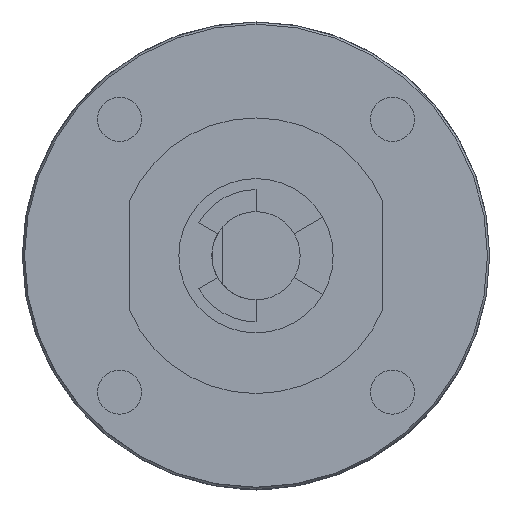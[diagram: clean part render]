
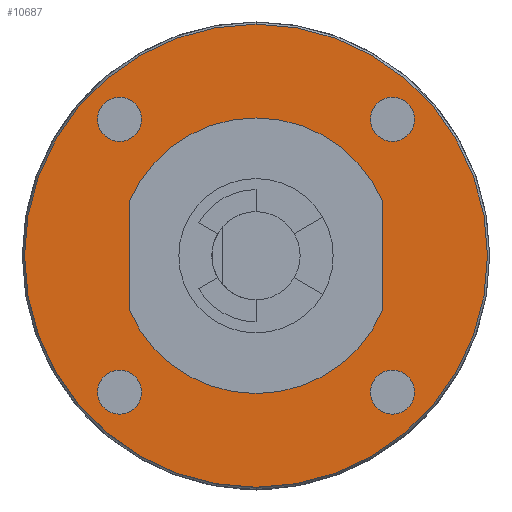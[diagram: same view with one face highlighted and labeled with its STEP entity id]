
A CAD part, front view. The second image highlights one B-rep face of the part: STEP entity #10687.
In plain terms, the highlighted planar face has unit normal (0, -1, 0) as drawn and (0, 1, 0) by its records, which use the part's own axes.
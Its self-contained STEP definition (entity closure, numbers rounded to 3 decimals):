
#9632=CARTESIAN_POINT('',(0.,59.6,0.));
#9633=DIRECTION('',(0.,1.,0.));
#9634=DIRECTION('',(0.,0.,1.));
#9635=AXIS2_PLACEMENT_3D('',#9632,#9633,#9634);
#9637=CARTESIAN_POINT('',(0.,59.6,0.));
#9638=DIRECTION('',(0.,1.,0.));
#9639=DIRECTION('',(0.,0.,-1.));
#9640=AXIS2_PLACEMENT_3D('',#9637,#9638,#9639);
#9642=CARTESIAN_POINT('',(-12.374,59.6,12.374));
#9643=DIRECTION('',(0.,-1.,0.));
#9644=DIRECTION('',(0.,0.,-1.));
#9645=AXIS2_PLACEMENT_3D('',#9642,#9643,#9644);
#9647=CARTESIAN_POINT('',(-12.374,59.6,12.374));
#9648=DIRECTION('',(0.,-1.,0.));
#9649=DIRECTION('',(0.,0.,1.));
#9650=AXIS2_PLACEMENT_3D('',#9647,#9648,#9649);
#9652=CARTESIAN_POINT('',(-12.374,59.6,-12.374));
#9653=DIRECTION('',(0.,-1.,0.));
#9654=DIRECTION('',(0.,0.,-1.));
#9655=AXIS2_PLACEMENT_3D('',#9652,#9653,#9654);
#9657=CARTESIAN_POINT('',(-12.374,59.6,-12.374));
#9658=DIRECTION('',(0.,-1.,0.));
#9659=DIRECTION('',(0.,0.,1.));
#9660=AXIS2_PLACEMENT_3D('',#9657,#9658,#9659);
#9662=CARTESIAN_POINT('',(12.374,59.6,-12.374));
#9663=DIRECTION('',(0.,-1.,0.));
#9664=DIRECTION('',(0.,0.,-1.));
#9665=AXIS2_PLACEMENT_3D('',#9662,#9663,#9664);
#9667=CARTESIAN_POINT('',(12.374,59.6,-12.374));
#9668=DIRECTION('',(0.,-1.,0.));
#9669=DIRECTION('',(0.,0.,1.));
#9670=AXIS2_PLACEMENT_3D('',#9667,#9668,#9669);
#9672=CARTESIAN_POINT('',(12.374,59.6,12.374));
#9673=DIRECTION('',(0.,-1.,0.));
#9674=DIRECTION('',(0.,0.,-1.));
#9675=AXIS2_PLACEMENT_3D('',#9672,#9673,#9674);
#9677=CARTESIAN_POINT('',(12.374,59.6,12.374));
#9678=DIRECTION('',(0.,-1.,0.));
#9679=DIRECTION('',(0.,0.,1.));
#9680=AXIS2_PLACEMENT_3D('',#9677,#9678,#9679);
#9682=DIRECTION('',(0.,0.,1.));
#9683=VECTOR('',#9682,9.798);
#9684=CARTESIAN_POINT('',(11.5,59.6,-4.899));
#9685=LINE('',#9684,#9683);
#9686=CARTESIAN_POINT('',(0.,59.6,0.));
#9687=DIRECTION('',(0.,-1.,0.));
#9688=DIRECTION('',(0.,0.,-1.));
#9689=AXIS2_PLACEMENT_3D('',#9686,#9687,#9688);
#9691=CARTESIAN_POINT('',(0.,59.6,0.));
#9692=DIRECTION('',(0.,-1.,0.));
#9693=DIRECTION('',(-0.92,0.,-0.392));
#9694=AXIS2_PLACEMENT_3D('',#9691,#9692,#9693);
#9696=DIRECTION('',(0.,0.,-1.));
#9697=VECTOR('',#9696,9.798);
#9698=CARTESIAN_POINT('',(-11.5,59.6,4.899));
#9699=LINE('',#9698,#9697);
#9700=CARTESIAN_POINT('',(0.,59.6,0.));
#9701=DIRECTION('',(0.,-1.,0.));
#9702=DIRECTION('',(0.,0.,1.));
#9703=AXIS2_PLACEMENT_3D('',#9700,#9701,#9702);
#9705=CARTESIAN_POINT('',(0.,59.6,0.));
#9706=DIRECTION('',(0.,-1.,0.));
#9707=DIRECTION('',(0.92,0.,0.392));
#9708=AXIS2_PLACEMENT_3D('',#9705,#9706,#9707);
#10370=CARTESIAN_POINT('',(-12.374,59.6,-14.374));
#10372=VERTEX_POINT('',#10370);
#10388=CARTESIAN_POINT('',(0.,59.6,21.));
#10390=VERTEX_POINT('',#10388);
#10396=CARTESIAN_POINT('',(0.,59.6,-21.));
#10398=VERTEX_POINT('',#10396);
#10418=CARTESIAN_POINT('',(12.374,59.6,-14.374));
#10420=VERTEX_POINT('',#10418);
#10422=CARTESIAN_POINT('',(-12.374,59.6,10.374));
#10424=VERTEX_POINT('',#10422);
#10486=CARTESIAN_POINT('',(-12.374,59.6,-10.374));
#10488=VERTEX_POINT('',#10486);
#10494=CARTESIAN_POINT('',(-11.5,59.6,4.899));
#10495=CARTESIAN_POINT('',(-11.5,59.6,-4.899));
#10496=VERTEX_POINT('',#10494);
#10497=VERTEX_POINT('',#10495);
#10542=CARTESIAN_POINT('',(12.374,59.6,-10.374));
#10543=VERTEX_POINT('',#10542);
#10544=CARTESIAN_POINT('',(0.,59.6,-12.5));
#10545=CARTESIAN_POINT('',(11.5,59.6,-4.899));
#10546=VERTEX_POINT('',#10544);
#10547=VERTEX_POINT('',#10545);
#10550=CARTESIAN_POINT('',(12.374,59.6,10.374));
#10551=CARTESIAN_POINT('',(12.374,59.6,14.374));
#10552=VERTEX_POINT('',#10550);
#10553=VERTEX_POINT('',#10551);
#10554=CARTESIAN_POINT('',(0.,59.6,12.5));
#10555=VERTEX_POINT('',#10554);
#10556=CARTESIAN_POINT('',(11.5,59.6,4.899));
#10557=VERTEX_POINT('',#10556);
#10562=CARTESIAN_POINT('',(-12.374,59.6,14.374));
#10563=VERTEX_POINT('',#10562);
#10640=CARTESIAN_POINT('',(0.,59.6,0.));
#10641=DIRECTION('',(0.,1.,0.));
#10642=DIRECTION('',(0.,0.,1.));
#10643=AXIS2_PLACEMENT_3D('',#10640,#10641,#10642);
#10644=PLANE('',#10643);
#10645=ORIENTED_EDGE('',*,*,#10620,.F.);
#10646=ORIENTED_EDGE('',*,*,#10633,.F.);
#10647=EDGE_LOOP('',(#10645,#10646));
#10648=FACE_OUTER_BOUND('',#10647,.F.);
#10650=ORIENTED_EDGE('',*,*,#10649,.F.);
#10652=ORIENTED_EDGE('',*,*,#10651,.F.);
#10653=EDGE_LOOP('',(#10650,#10652));
#10654=FACE_BOUND('',#10653,.F.);
#10656=ORIENTED_EDGE('',*,*,#10655,.F.);
#10658=ORIENTED_EDGE('',*,*,#10657,.F.);
#10659=EDGE_LOOP('',(#10656,#10658));
#10660=FACE_BOUND('',#10659,.F.);
#10662=ORIENTED_EDGE('',*,*,#10661,.F.);
#10664=ORIENTED_EDGE('',*,*,#10663,.F.);
#10665=EDGE_LOOP('',(#10662,#10664));
#10666=FACE_BOUND('',#10665,.F.);
#10668=ORIENTED_EDGE('',*,*,#10667,.F.);
#10670=ORIENTED_EDGE('',*,*,#10669,.F.);
#10671=EDGE_LOOP('',(#10668,#10670));
#10672=FACE_BOUND('',#10671,.F.);
#10674=ORIENTED_EDGE('',*,*,#10673,.F.);
#10676=ORIENTED_EDGE('',*,*,#10675,.F.);
#10678=ORIENTED_EDGE('',*,*,#10677,.F.);
#10680=ORIENTED_EDGE('',*,*,#10679,.F.);
#10682=ORIENTED_EDGE('',*,*,#10681,.F.);
#10684=ORIENTED_EDGE('',*,*,#10683,.F.);
#10685=EDGE_LOOP('',(#10674,#10676,#10678,#10680,#10682,#10684));
#10686=FACE_BOUND('',#10685,.F.);
#10687=ADVANCED_FACE('',(#10648,#10654,#10660,#10666,#10672,#10686),#10644,.T.);
#9636=CIRCLE('',#9635,21.);
#9641=CIRCLE('',#9640,21.);
#9646=CIRCLE('',#9645,2.);
#9651=CIRCLE('',#9650,2.);
#9656=CIRCLE('',#9655,2.);
#9661=CIRCLE('',#9660,2.);
#9666=CIRCLE('',#9665,2.);
#9671=CIRCLE('',#9670,2.);
#9676=CIRCLE('',#9675,2.);
#9681=CIRCLE('',#9680,2.);
#9690=CIRCLE('',#9689,12.5);
#9695=CIRCLE('',#9694,12.5);
#9704=CIRCLE('',#9703,12.5);
#9709=CIRCLE('',#9708,12.5);
#10620=EDGE_CURVE('',#10390,#10398,#9636,.T.);
#10633=EDGE_CURVE('',#10398,#10390,#9641,.T.);
#10649=EDGE_CURVE('',#10424,#10563,#9646,.T.);
#10651=EDGE_CURVE('',#10563,#10424,#9651,.T.);
#10655=EDGE_CURVE('',#10372,#10488,#9656,.T.);
#10657=EDGE_CURVE('',#10488,#10372,#9661,.T.);
#10661=EDGE_CURVE('',#10420,#10543,#9666,.T.);
#10663=EDGE_CURVE('',#10543,#10420,#9671,.T.);
#10667=EDGE_CURVE('',#10552,#10553,#9676,.T.);
#10669=EDGE_CURVE('',#10553,#10552,#9681,.T.);
#10673=EDGE_CURVE('',#10547,#10557,#9685,.T.);
#10675=EDGE_CURVE('',#10546,#10547,#9690,.T.);
#10677=EDGE_CURVE('',#10497,#10546,#9695,.T.);
#10679=EDGE_CURVE('',#10496,#10497,#9699,.T.);
#10681=EDGE_CURVE('',#10555,#10496,#9704,.T.);
#10683=EDGE_CURVE('',#10557,#10555,#9709,.T.);
